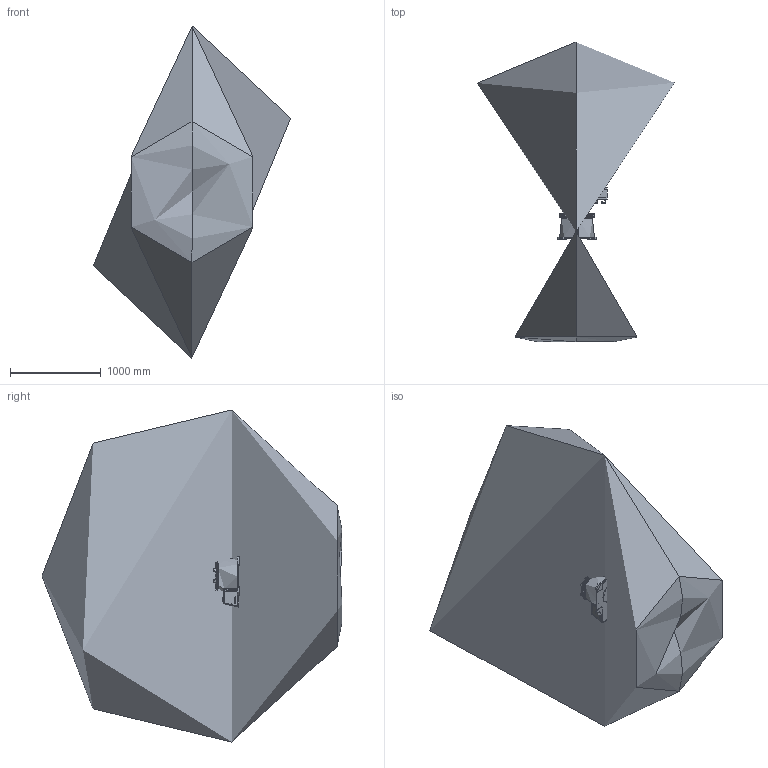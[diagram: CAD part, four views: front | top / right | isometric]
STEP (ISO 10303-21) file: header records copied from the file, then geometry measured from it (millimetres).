
FILE_DESCRIPTION (( 'STEP AP214' ), '1' );
FILE_NAME ('阹陎暱R1880-30-E 俋窒耀倰.STEP', '2020-12-01T09:33:24', ( '' ), ( '' ), 'SwSTEP 2.0', 'SolidWorks 2016', '' );
FILE_SCHEMA (( 'AUTOMOTIVE_DESIGN' ));
Length unit declared in the file: millimetre
Products named in the file (9): 阹陎暱R1880-30-E罕30--6; 阹陎暱R1880-30-E--5; 阹陎暱R1880-30-E--4; 阹陎暱R1880-30-E--2; 阹陎暱R1880-30-E 俋窒耀倰; 阹陎暱R1880-30-E--8; 阹陎暱R1880-30-E--7; 阹陎暱R1880-30-E--1; 阹陎暱R1880-30-E--3
Assembly tree (8 placements, depth 2):
  阹陎暱R1880-30-E 俋窒耀倰
    阹陎暱R1880-30-E--1
    阹陎暱R1880-30-E--2
    阹陎暱R1880-30-E--3
    阹陎暱R1880-30-E--4
    阹陎暱R1880-30-E罕30--6
    阹陎暱R1880-30-E--7
    阹陎暱R1880-30-E--5
    阹陎暱R1880-30-E--8
Bounding box: 2171.23 x 3301.55 x 3656.67 mm (x, y, z)
Topology: 1 solids, 304 shells, 5917 faces, 18326 edges, 12432 vertices
Faces by surface type: cylinder 2324, plane 1729, bspline 1608, cone 256
Entity records: 370706 total; most frequent: CARTESIAN_POINT 224021, ORIENTED_EDGE 31056, DIRECTION 26026, EDGE_CURVE 18127, VERTEX_POINT 12430, AXIS2_PLACEMENT_3D 9488, LINE 7050, VECTOR 7050
